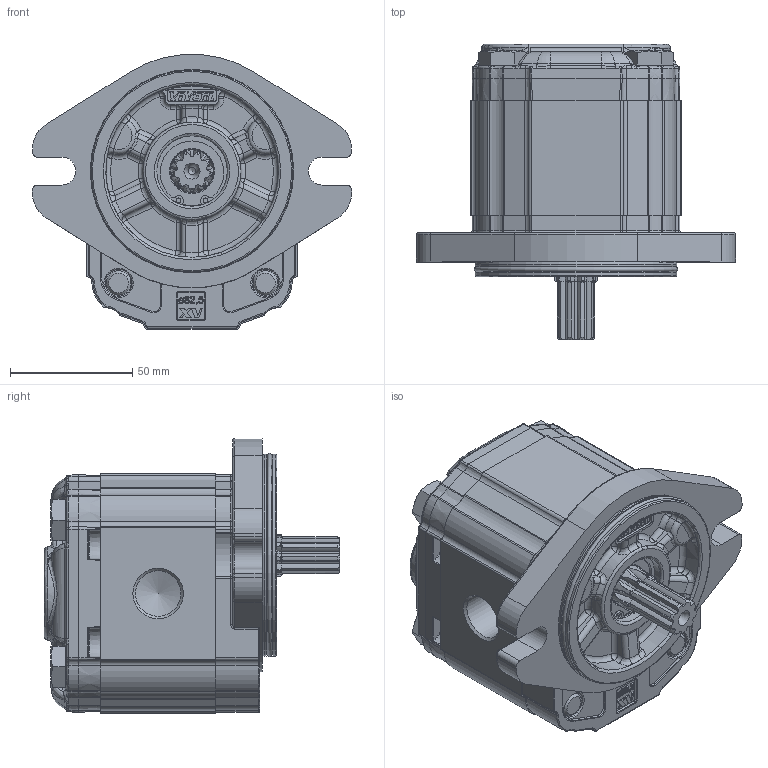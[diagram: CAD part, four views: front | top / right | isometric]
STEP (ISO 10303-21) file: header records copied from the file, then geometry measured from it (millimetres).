
FILE_DESCRIPTION(/* description */ ('Unknown'),/* implementation_level */ '2;1');
FILE_NAME(/* name */ 'X2U4151IBBA',/* time_stamp */ '2021-04-14T20:31:44+02:00',/* author */ ('Unknown'),/* organization */ ('Unknown'),/* preprocessor_version */ 'ST-DEVELOPER v16.7',/* originating_system */ 'Solid Edge',/* authorisation */ 'Unknown');
FILE_SCHEMA (('AUTOMOTIVE_DESIGN {1 0 10303 214 3 1 1}'));
Products named in the file (5): X2U4151IBBA; X2U51; 2I; X2BBH47; XU219-A
Assembly tree (4 placements, depth 2):
  X2U4151IBBA
    X2U51
    2I
    X2BBH47
    XU219-A
Bounding box: 130.38 x 120.7 x 112.3 mm (x, y, z)
Volume: 677271.3 mm3; surface area: 102850.6 mm2
Topology: 4 solids, 5 shells, 2202 faces, 5434 edges, 3297 vertices
Faces by surface type: cylinder 648, plane 590, bspline 537, torus 285, cone 104, sphere 38
Full cylindrical faces by diameter (mm): 2 x2, 10 x4, 10.5 x4, 11 x2, 16 x4, 17.42 x1, 18 x1, 18.631 x1, 19 x1, 20.595 x1, 23.332 x1, 25.834 x1, 28.5 x1, 28.56 x1, 28.57 x1, 28.8 x1, 30.4 x1, 79.6 x2, 82.5 x2
Entity records: 92173 total; most frequent: CARTESIAN_POINT 30187, ORIENTED_EDGE 10492, DIRECTION 8845, EDGE_CURVE 5246, AXIS2_PLACEMENT_3D 3377, VERTEX_POINT 3235, FACE_BOUND 2391, EDGE_LOOP 2388
